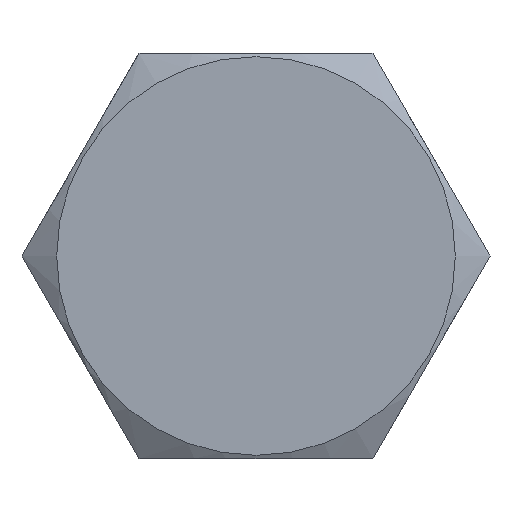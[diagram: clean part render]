
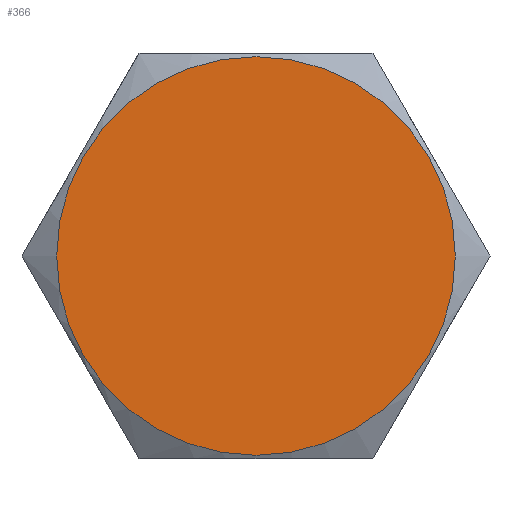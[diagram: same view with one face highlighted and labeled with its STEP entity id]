
A CAD part, front view. The second image highlights one B-rep face of the part: STEP entity #366.
In plain terms, the highlighted planar face has unit normal (0, -1, 0).
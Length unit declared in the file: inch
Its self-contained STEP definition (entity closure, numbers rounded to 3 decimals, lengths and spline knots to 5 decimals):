
#52=PLANE('',#417);
#108=FACE_OUTER_BOUND('',#130,.T.);
#130=EDGE_LOOP('',(#336));
#148=CIRCLE('',#416,0.43031);
#184=VERTEX_POINT('',#703);
#236=EDGE_CURVE('',#184,#184,#148,.T.);
#336=ORIENTED_EDGE('',*,*,#236,.F.);
#366=ADVANCED_FACE('',(#108),#52,.T.);
#416=AXIS2_PLACEMENT_3D('',#704,#504,#505);
#417=AXIS2_PLACEMENT_3D('',#706,#507,#508);
#504=DIRECTION('center_axis',(0.,1.,0.));
#505=DIRECTION('ref_axis',(0.,0.,1.));
#507=DIRECTION('center_axis',(0.,-1.,0.));
#508=DIRECTION('ref_axis',(0.,0.,-1.));
#703=CARTESIAN_POINT('',(0.,0.,-0.43031));
#704=CARTESIAN_POINT('Origin',(0.,0.,0.));
#706=CARTESIAN_POINT('Origin',(0.,0.,0.));
